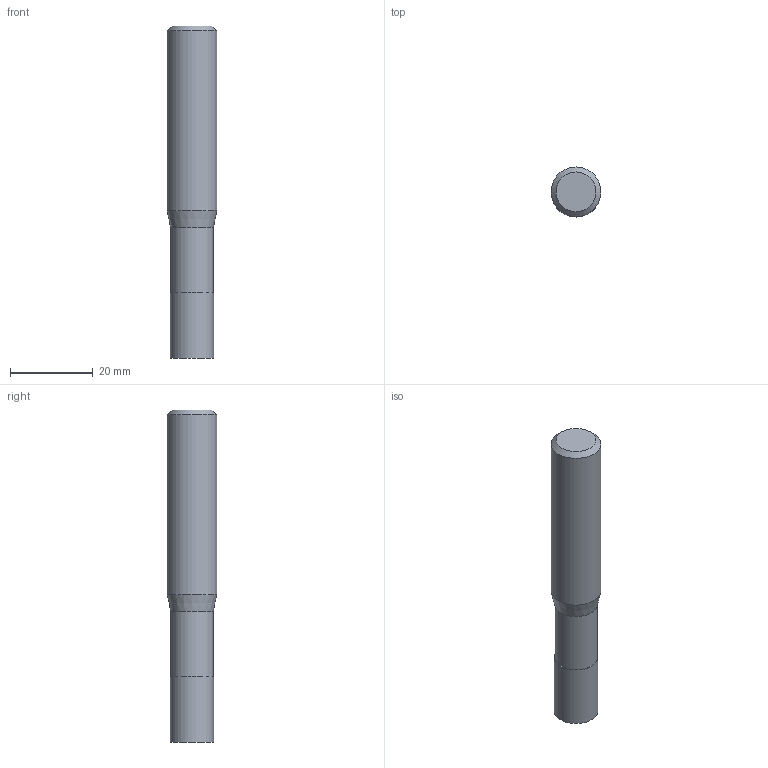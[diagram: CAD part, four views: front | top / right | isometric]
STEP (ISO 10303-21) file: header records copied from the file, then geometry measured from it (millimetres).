
FILE_DESCRIPTION((''),'2;1');
FILE_NAME('C:\Users\nsx150\AppData\Local\Temp\Mastercam 2021\EUJSUNXURU\TEMP.step','2021-04-22T10:30:05',(''),(''),'STEP Write','Mastercam 2021 ... CNC Software, Inc.','');
FILE_SCHEMA(('AUTOMOTIVE_DESIGN'));
Length unit declared in the file: millimetre
Products named in the file (1): None
Bounding box: 12 x 12 x 80 mm (x, y, z)
Volume: 8075.1 mm3; surface area: 3191.3 mm2
Topology: 2 solids, 2 shells, 9 faces, 12 edges, 7 vertices
Faces by surface type: plane 4, cylinder 3, cone 2
Full cylindrical faces by diameter (mm): 10.3 x1, 10.5 x1, 12 x1
Entity records: 211 total; most frequent: DIRECTION 36, CARTESIAN_POINT 25, AXIS2_PLACEMENT_3D 18, ORIENTED_EDGE 14, EDGE_LOOP 14, STYLED_ITEM 12, ADVANCED_FACE 9, FACE_BOUND 8
